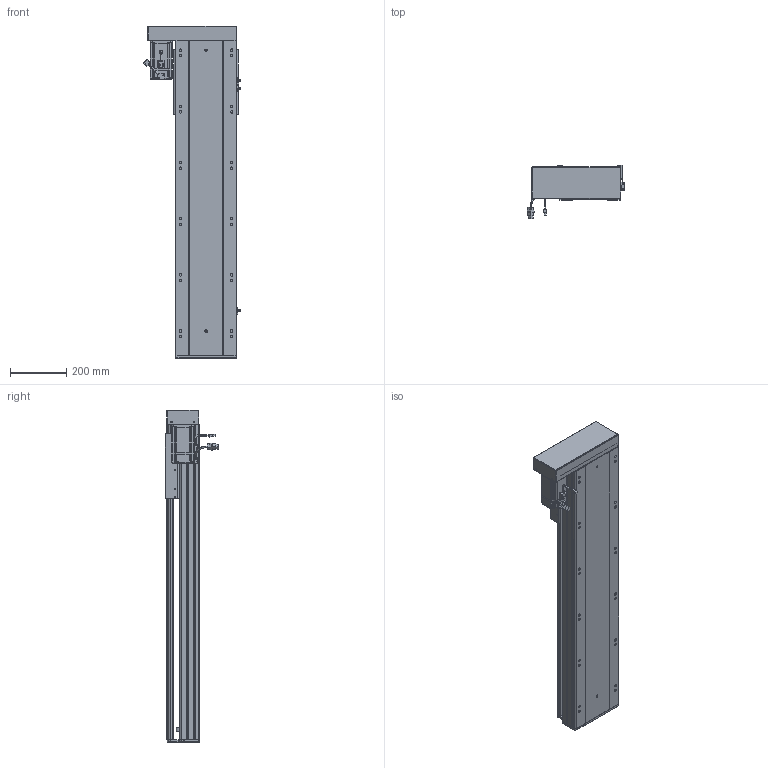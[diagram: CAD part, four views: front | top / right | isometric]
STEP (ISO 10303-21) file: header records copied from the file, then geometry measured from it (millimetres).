
FILE_DESCRIPTION (( 'STEP AP203' ), '1' );
FILE_NAME ('RY220-L2525-300-LK.SLDASM_800.step', '2022-07-04T01:46:47', ( '' ), ( '' ), 'SwSTEP 2.0', 'SolidWorks 2016', '' );
FILE_SCHEMA (( 'CONFIG_CONTROL_DESIGN' ));
Length unit declared in the file: millimetre
Products named in the file (12): RY220綴裔啣; RY220左右折电机安装板; RY220酘衵殏萇儂欶; RY220-300-蛌殏奻裔啣_800; 覜茼ん672; 滅袉蝶18-15; RY220-L2525-300-LK.SLDASM_800; RY220半封闭25-32螺母铝滑块; 怢湛750W_ECMA-CX0807ES; 滅袉蝶18-10; RY220-俋离672覜茼んえ; RY220蛌殏菁釱-300_800
Assembly tree (15 placements, depth 2):
  RY220-L2525-300-LK.SLDASM_800
    RY220蛌殏菁釱-300_800
    RY220-300-蛌殏奻裔啣_800
    怢湛750W_ECMA-CX0807ES
    滅袉蝶18-10  x2
    RY220-俋离672覜茼んえ
    覜茼ん672  x3
    RY220綴裔啣
    RY220半封闭25-32螺母铝滑块
    滅袉蝶18-15  x2
    RY220左右折电机安装板
    RY220酘衵殏萇儂欶
Bounding box: 347.44 x 189.27 x 1182 mm (x, y, z)
Volume: 10268727.1 mm3; surface area: 2954875.7 mm2
Topology: 16 solids, 16 shells, 2101 faces, 5792 edges, 3673 vertices
Faces by surface type: cylinder 933, plane 896, cone 202, bspline 44, sphere 16, torus 10
Entity records: 69293 total; most frequent: CARTESIAN_POINT 20189, ORIENTED_EDGE 10208, DIRECTION 9544, EDGE_CURVE 5104, AXIS2_PLACEMENT_3D 3335, VERTEX_POINT 3329, VECTOR 2874, LINE 2874
